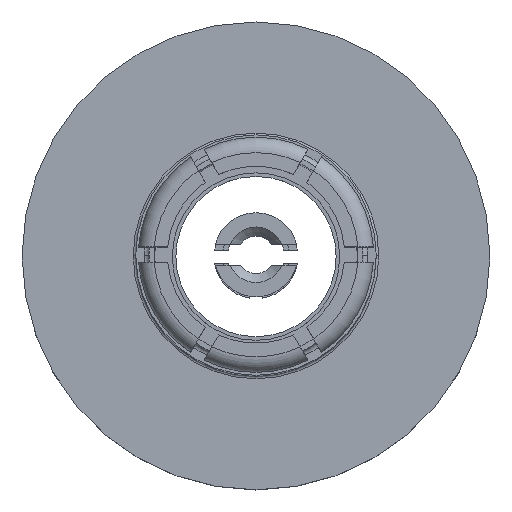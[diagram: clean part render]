
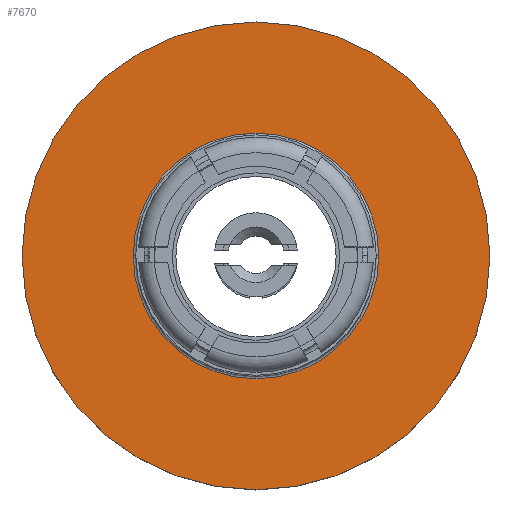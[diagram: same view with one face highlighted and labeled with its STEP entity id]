
A CAD part, top view. The second image highlights one B-rep face of the part: STEP entity #7670.
In plain terms, the highlighted planar face has unit normal (0, 0, 1).
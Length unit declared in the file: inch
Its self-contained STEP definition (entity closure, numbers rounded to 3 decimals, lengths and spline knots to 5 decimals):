
#317 = DIRECTION ( 'NONE',  ( 0., 0., 1. ) ) ;
#425 = EDGE_CURVE ( 'NONE', #6033, #1967, #6753, .T. ) ;
#1047 = DIRECTION ( 'NONE',  ( -1., 0., 0. ) ) ;
#1071 = AXIS2_PLACEMENT_3D ( 'NONE', #4891, #317, #5670 ) ;
#1139 = ORIENTED_EDGE ( 'NONE', *, *, #425, .F. ) ;
#1426 = DIRECTION ( 'NONE',  ( 0., 0., 1. ) ) ;
#1492 = DIRECTION ( 'NONE',  ( 0., 0., 1. ) ) ;
#1907 = CIRCLE ( 'NONE', #3707, 0.0475 ) ;
#1948 = ORIENTED_EDGE ( 'NONE', *, *, #4355, .T. ) ;
#1967 = VERTEX_POINT ( 'NONE', #2027 ) ;
#2027 = CARTESIAN_POINT ( 'NONE',  ( 0.0475, 0., -0.2665 ) ) ;
#2412 = CIRCLE ( 'NONE', #1071, 0.0905 ) ;
#2594 = ORIENTED_EDGE ( 'NONE', *, *, #3971, .F. ) ;
#3707 = AXIS2_PLACEMENT_3D ( 'NONE', #4101, #9456, #4875 ) ;
#3971 = EDGE_CURVE ( 'NONE', #1967, #6033, #1907, .T. ) ;
#3980 = FACE_BOUND ( 'NONE', #7295, .T. ) ;
#4101 = CARTESIAN_POINT ( 'NONE',  ( 0., 0., -0.2665 ) ) ;
#4215 = FACE_OUTER_BOUND ( 'NONE', #8962, .T. ) ;
#4355 = EDGE_CURVE ( 'NONE', #6775, #5842, #4667, .T. ) ;
#4667 = CIRCLE ( 'NONE', #6091, 0.0905 ) ;
#4859 = CARTESIAN_POINT ( 'NONE',  ( 0., 0.0475, -0.2665 ) ) ;
#4875 = DIRECTION ( 'NONE',  ( 1., 0., 0. ) ) ;
#4891 = CARTESIAN_POINT ( 'NONE',  ( 0., 0., -0.2665 ) ) ;
#5344 = ORIENTED_EDGE ( 'NONE', *, *, #8146, .T. ) ;
#5565 = AXIS2_PLACEMENT_3D ( 'NONE', #4859, #5629, #1047 ) ;
#5629 = DIRECTION ( 'NONE',  ( 0., 0., -1. ) ) ;
#5670 = DIRECTION ( 'NONE',  ( 1., 0., 0. ) ) ;
#5842 = VERTEX_POINT ( 'NONE', #8576 ) ;
#6018 = CARTESIAN_POINT ( 'NONE',  ( 0., 0., -0.2665 ) ) ;
#6033 = VERTEX_POINT ( 'NONE', #8766 ) ;
#6086 = CARTESIAN_POINT ( 'NONE',  ( 0., 0., -0.2665 ) ) ;
#6091 = AXIS2_PLACEMENT_3D ( 'NONE', #6018, #1426, #6806 ) ;
#6753 = CIRCLE ( 'NONE', #7914, 0.0475 ) ;
#6775 = VERTEX_POINT ( 'NONE', #9865 ) ;
#6806 = DIRECTION ( 'NONE',  ( 1., 0., 0. ) ) ;
#6877 = DIRECTION ( 'NONE',  ( 1., 0., 0. ) ) ;
#7295 = EDGE_LOOP ( 'NONE', ( #2594, #1139 ) ) ;
#7670 = ADVANCED_FACE ( 'NONE', ( #3980, #4215 ), #9439, .F. ) ;
#7914 = AXIS2_PLACEMENT_3D ( 'NONE', #6086, #1492, #6877 ) ;
#8146 = EDGE_CURVE ( 'NONE', #5842, #6775, #2412, .T. ) ;
#8576 = CARTESIAN_POINT ( 'NONE',  ( 0.0905, 0., -0.2665 ) ) ;
#8766 = CARTESIAN_POINT ( 'NONE',  ( -0.0475, 0., -0.2665 ) ) ;
#8962 = EDGE_LOOP ( 'NONE', ( #5344, #1948 ) ) ;
#9439 = PLANE ( 'NONE',  #5565 ) ;
#9456 = DIRECTION ( 'NONE',  ( 0., 0., 1. ) ) ;
#9865 = CARTESIAN_POINT ( 'NONE',  ( -0.0905, 0., -0.2665 ) ) ;
